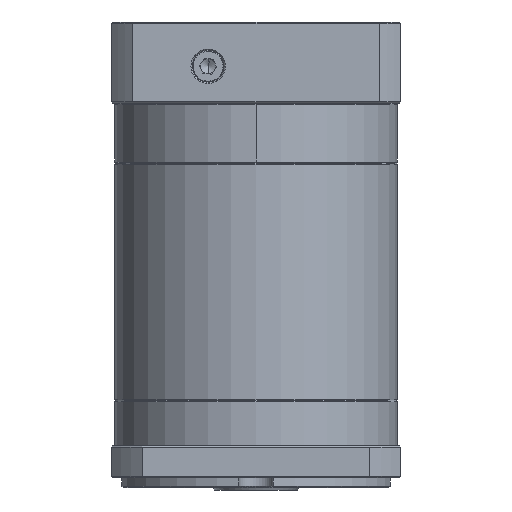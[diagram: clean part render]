
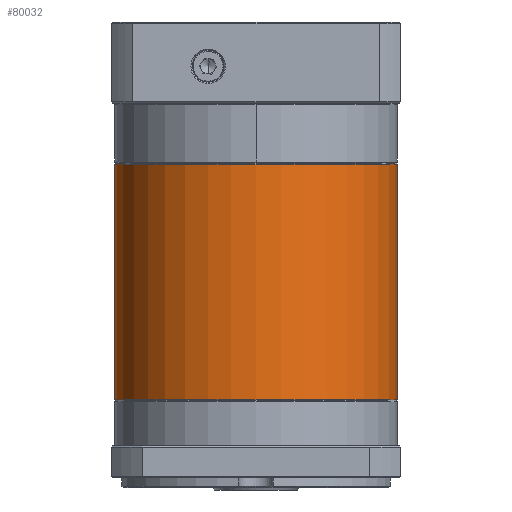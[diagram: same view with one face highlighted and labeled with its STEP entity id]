
A CAD part, front view. The second image highlights one B-rep face of the part: STEP entity #80032.
In plain terms, the highlighted cylindrical face has radius 57.5 mm (diameter 115 mm), a partial arc.
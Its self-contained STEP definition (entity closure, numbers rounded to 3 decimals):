
#1574 = ORIENTED_EDGE ( 'NONE', *, *, #31580, .T. ) ;
#8231 = VERTEX_POINT ( 'NONE', #102273 ) ;
#11135 = AXIS2_PLACEMENT_3D ( 'NONE', #73701, #14881, #34914 ) ;
#12334 = VERTEX_POINT ( 'NONE', #86929 ) ;
#13765 = LINE ( 'NONE', #97044, #62887 ) ;
#14881 = DIRECTION ( 'NONE',  ( 0., 0., -1. ) ) ;
#17082 = DIRECTION ( 'NONE',  ( -1., 0., 0. ) ) ;
#18749 = ORIENTED_EDGE ( 'NONE', *, *, #42252, .T. ) ;
#25922 = DIRECTION ( 'NONE',  ( 0., 0., -1. ) ) ;
#28343 = CIRCLE ( 'NONE', #86315, 57.5 ) ;
#30381 = FACE_OUTER_BOUND ( 'NONE', #38224, .T. ) ;
#31580 = EDGE_CURVE ( 'NONE', #58589, #37573, #47537, .T. ) ;
#33770 = CARTESIAN_POINT ( 'NONE',  ( 69.759, 44.19, -59.459 ) ) ;
#34914 = DIRECTION ( 'NONE',  ( -1., 0., 0. ) ) ;
#37573 = VERTEX_POINT ( 'NONE', #113227 ) ;
#38224 = EDGE_LOOP ( 'NONE', ( #79824, #125630, #1574, #18749, #117079 ) ) ;
#42252 = EDGE_CURVE ( 'NONE', #37573, #8231, #119462, .T. ) ;
#46113 = CARTESIAN_POINT ( 'NONE',  ( 12.259, 44.19, -59.459 ) ) ;
#47537 = CIRCLE ( 'NONE', #11135, 57.5 ) ;
#48215 = DIRECTION ( 'NONE',  ( 0., 0., 1. ) ) ;
#53556 = DIRECTION ( 'NONE',  ( 0., 0., -1. ) ) ;
#58040 = CYLINDRICAL_SURFACE ( 'NONE', #63504, 57.5 ) ;
#58589 = VERTEX_POINT ( 'NONE', #100666 ) ;
#60234 = DIRECTION ( 'NONE',  ( 0., 0., -1. ) ) ;
#62887 = VECTOR ( 'NONE', #70818, 1000. ) ;
#63504 = AXIS2_PLACEMENT_3D ( 'NONE', #33770, #53556, #17082 ) ;
#70818 = DIRECTION ( 'NONE',  ( 0., 0., -1. ) ) ;
#73701 = CARTESIAN_POINT ( 'NONE',  ( 69.759, 44.19, -59.959 ) ) ;
#73987 = VERTEX_POINT ( 'NONE', #113557 ) ;
#79824 = ORIENTED_EDGE ( 'NONE', *, *, #105775, .F. ) ;
#80032 = ADVANCED_FACE ( 'NONE', ( #30381 ), #58040, .T. ) ;
#85631 = EDGE_CURVE ( 'NONE', #73987, #58589, #101423, .T. ) ;
#86315 = AXIS2_PLACEMENT_3D ( 'NONE', #87303, #48215, #116982 ) ;
#86929 = CARTESIAN_POINT ( 'NONE',  ( 127.259, 44.19, -155.67 ) ) ;
#87303 = CARTESIAN_POINT ( 'NONE',  ( 69.759, 44.19, -155.67 ) ) ;
#97044 = CARTESIAN_POINT ( 'NONE',  ( 127.259, 44.19, -59.459 ) ) ;
#100557 = DIRECTION ( 'NONE',  ( -1., 0., 0. ) ) ;
#100666 = CARTESIAN_POINT ( 'NONE',  ( 69.759, -13.31, -59.959 ) ) ;
#101423 = CIRCLE ( 'NONE', #102214, 57.5 ) ;
#102214 = AXIS2_PLACEMENT_3D ( 'NONE', #119956, #60234, #100557 ) ;
#102273 = CARTESIAN_POINT ( 'NONE',  ( 12.259, 44.19, -155.67 ) ) ;
#105775 = EDGE_CURVE ( 'NONE', #73987, #12334, #13765, .T. ) ;
#113227 = CARTESIAN_POINT ( 'NONE',  ( 12.259, 44.19, -59.959 ) ) ;
#113557 = CARTESIAN_POINT ( 'NONE',  ( 127.259, 44.19, -59.959 ) ) ;
#114726 = VECTOR ( 'NONE', #25922, 1000. ) ;
#116982 = DIRECTION ( 'NONE',  ( -1., 0., 0. ) ) ;
#117079 = ORIENTED_EDGE ( 'NONE', *, *, #120843, .T. ) ;
#119462 = LINE ( 'NONE', #46113, #114726 ) ;
#119956 = CARTESIAN_POINT ( 'NONE',  ( 69.759, 44.19, -59.959 ) ) ;
#120843 = EDGE_CURVE ( 'NONE', #8231, #12334, #28343, .T. ) ;
#125630 = ORIENTED_EDGE ( 'NONE', *, *, #85631, .T. ) ;
